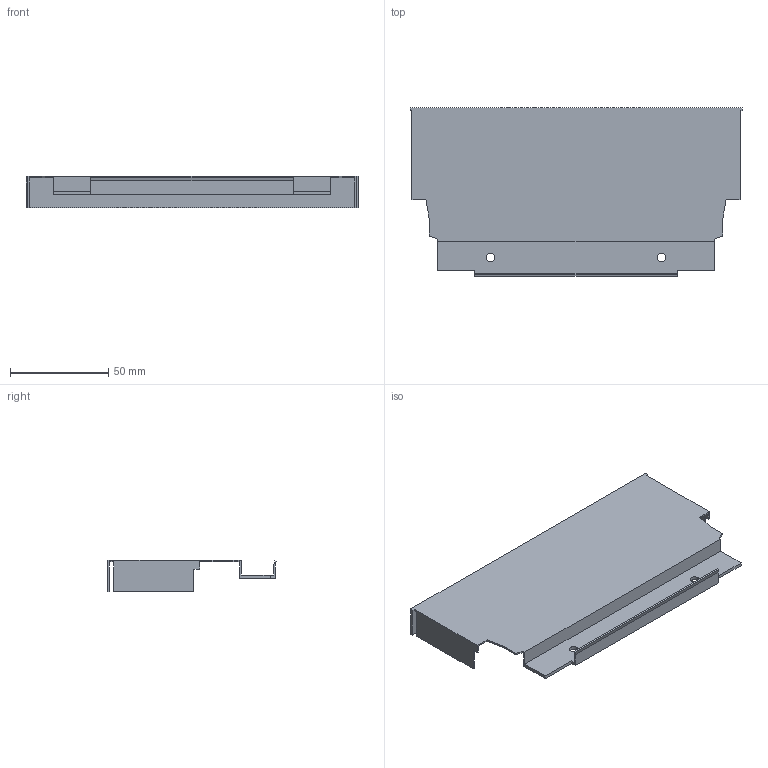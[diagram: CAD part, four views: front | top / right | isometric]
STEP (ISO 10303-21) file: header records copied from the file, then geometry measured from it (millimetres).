
FILE_DESCRIPTION (( 'STEP AP214' ), '1' );
FILE_NAME ('_DWD_XP Stahlrückwand_H86_KAB250_S16.step', '2010-07-08T12:09:51', ( 'grass' ), ( '' ), 'SwSTEP 2.0', 'SolidWorks 2010', '' );
FILE_SCHEMA (( 'AUTOMOTIVE_DESIGN' ));
Length unit declared in the file: millimetre
Products named in the file (1): _DWD_XP Stahlrückwand_H86_KAB250_S16
Bounding box: 169 x 85.79 x 16 mm (x, y, z)
Volume: 17316.9 mm3; surface area: 38666.5 mm2
Topology: 1 solids, 1 shells, 48 faces, 138 edges, 92 vertices
Faces by surface type: plane 44, cylinder 4
Entity records: 1592 total; most frequent: CARTESIAN_POINT 279, ORIENTED_EDGE 276, DIRECTION 244, EDGE_CURVE 138, VECTOR 130, LINE 130, VERTEX_POINT 92, AXIS2_PLACEMENT_3D 57
